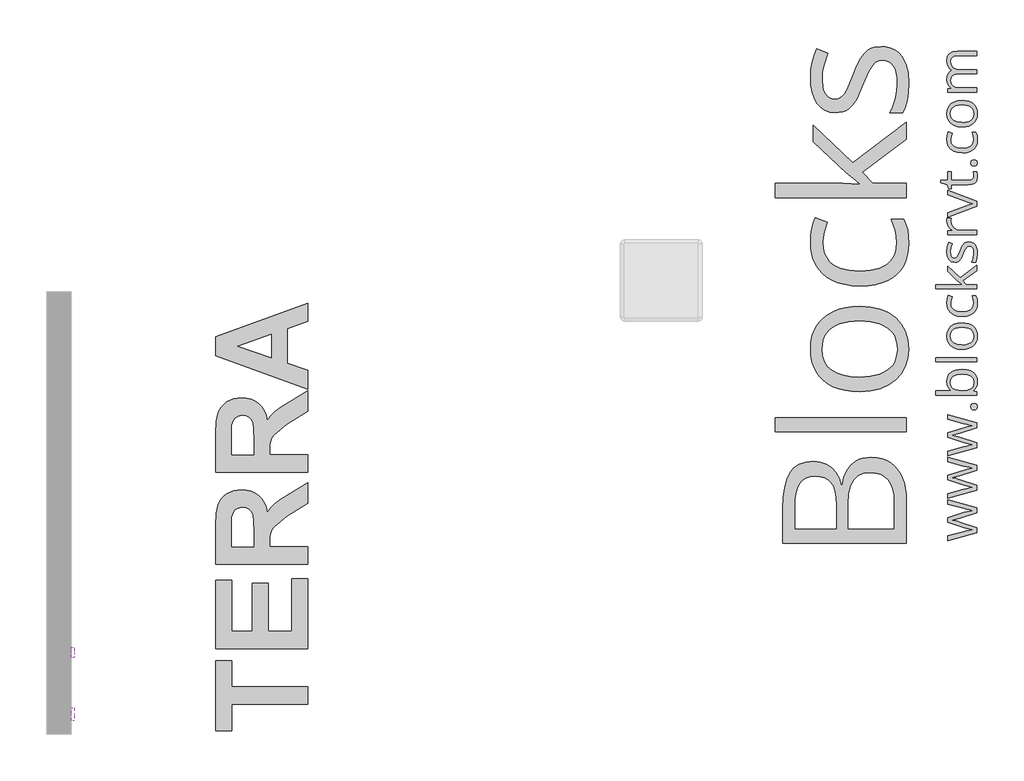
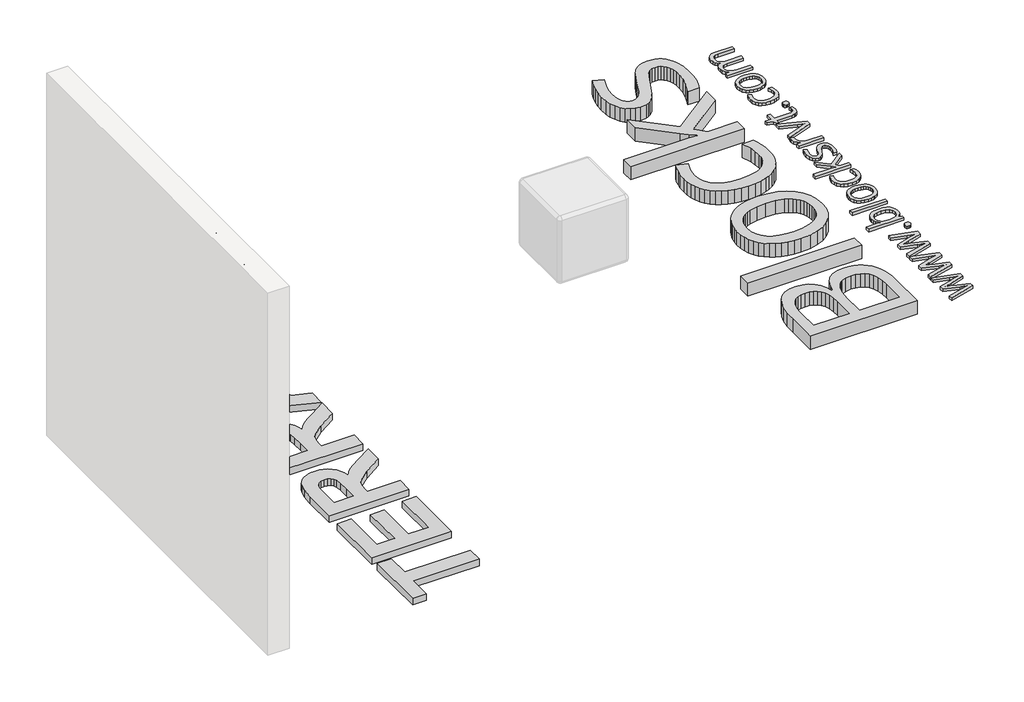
# One storey, part 6 of 6: 5 proxies.
"""IFC4 building model written with IfcOpenShell, lengths in millimetres."""

from ifc_helpers import new_model, si_unit, frame, origin, origin_with_axes, place, context, project, spatial, polyline, outline, extrude, element, save

model = new_model("IFC4")

# Units and contexts
model_context = context("Model", 3, world=origin())
ifc_project = project(units=[si_unit("LENGTHUNIT", "METRE", prefix="MILLI")], contexts=[model_context])

# Site, building, storey
site = spatial("IfcSite", under=ifc_project)
building = spatial("IfcBuilding", under=site)
storey = spatial("IfcBuildingStorey", under=building, Name="PORTOBELLO - SHOWROOM", Elevation=0.0)

# Proxies
placement = place(None, origin())
element("IfcBuildingElementProxy", 1, Name="10mm Arial", ObjectType="10mm Arial", at=placement, inside=storey, context=model_context, shape_type="SweptSolid", body=[
    extrude(outline(polyline([(7317.1715522, 2518.4745677), (7317.1715522, 2606.373839), (7284.2093254, 2606.373839), (7284.2093254, 2618.9308778), (7362.6908177, 2618.9308778), (7362.6908177, 2606.373839), (7329.7285909, 2606.373839), (7329.7285909, 2518.4745677), (7317.1715522, 2518.4745677)])), frame((-18826.2609603, 0.0, 0.0), z_axis=(1.0, 0.0, 0.0), x_axis=(0.0, 1.0, 0.0)), (0.0, 0.0, 1.0), 20.0),
    extrude(outline(polyline([(7426.8984886, 2540.4493855), (7439.2102727, 2538.8797557), (7434.774229, 2529.602998), (7427.6955663, 2522.6684224), (7418.1337001, 2518.345809), (7406.2480459, 2516.9049378), (7391.514372, 2519.391207), (7380.1774752, 2526.8500144), (7372.948594, 2538.7969822), (7370.5389669, 2554.7477324), (7372.9731195, 2571.2349771), (7380.2755771, 2583.5651553), (7391.4591897, 2591.253889), (7405.5368074, 2593.8168003), (7419.1760324, 2591.2600204), (7430.0745365, 2583.5896808), (7437.2206442, 2571.2840281), (7439.6026802, 2554.8213088), (7439.5291038, 2551.4367944), (7383.0960057, 2551.4367944), (7385.2695752, 2542.0374095), (7390.3187555, 2535.1273593), (7397.6058847, 2530.8783223), (7406.4933006, 2529.4619766), (7418.8050847, 2532.0862015), (7426.8984886, 2540.4493855)]), holes=[polyline([(7383.0960057, 2563.9938332), (7427.0456414, 2563.9938332), (7422.0179208, 2575.3736496), (7414.6970691, 2579.7882335), (7405.4877565, 2581.2597615), (7390.02445, 2576.5631347), (7385.1592106, 2571.0724959), (7383.0960057, 2563.9938332)])]), frame((-18826.2609603, 0.0, 0.0), z_axis=(1.0, 0.0, 0.0), x_axis=(0.0, 1.0, 0.0)), (0.0, 0.0, 1.0), 20.0),
    extrude(outline(polyline([(7452.1597189, 2518.4745677), (7452.1597189, 2592.2471704), (7463.1471279, 2592.2471704), (7463.1471279, 2581.3333379), (7470.9462262, 2591.3887791), (7478.7943754, 2593.8168003), (7491.4004651, 2589.9417766), (7487.2066103, 2578.6845875), (7478.3774425, 2581.2597615), (7471.27732, 2578.7826894), (7466.7523714, 2571.9155588), (7464.7167577, 2557.24933), (7464.7167577, 2518.4745677), (7452.1597189, 2518.4745677)])), frame((-18826.2609603, 0.0, 0.0), z_axis=(1.0, 0.0, 0.0), x_axis=(0.0, 1.0, 0.0)), (0.0, 0.0, 1.0), 20.0),
    extrude(outline(polyline([(7499.2486143, 2518.4745677), (7499.2486143, 2592.2471704), (7510.2360232, 2592.2471704), (7510.2360232, 2581.3333379), (7518.0351215, 2591.3887791), (7525.8832708, 2593.8168003), (7538.4893605, 2589.9417766), (7534.2955057, 2578.6845875), (7525.4663378, 2581.2597615), (7518.3662153, 2578.7826894), (7513.8412668, 2571.9155588), (7511.8056531, 2557.24933), (7511.8056531, 2518.4745677), (7499.2486143, 2518.4745677)])), frame((-18826.2609603, 0.0, 0.0), z_axis=(1.0, 0.0, 0.0), x_axis=(0.0, 1.0, 0.0)), (0.0, 0.0, 1.0), 20.0),
    extrude(outline(polyline([(7593.4264051, 2527.8923467), (7581.249511, 2519.3820099), (7567.7972928, 2516.9049378), (7557.3034588, 2518.3948599), (7549.5626085, 2522.8646261), (7544.7893396, 2529.6520489), (7543.19825, 2538.0949407), (7545.6017457, 2548.0277546), (7551.9170533, 2555.2382417), (7560.709433, 2559.3585201), (7571.5742146, 2561.246981), (7593.3528287, 2565.563463), (7593.4264051, 2568.3593662), (7589.9683143, 2577.6299925), (7576.0869004, 2581.2597615), (7563.3827088, 2578.8440031), (7557.3249186, 2570.2723526), (7544.7678799, 2571.8419824), (7550.2002707, 2584.1047156), (7561.1386286, 2591.2906772), (7577.7055812, 2593.8168003), (7592.923633, 2591.5849828), (7601.519809, 2585.9809138), (7605.3703072, 2577.4583142), (7605.9834439, 2566.4709053), (7605.9834439, 2550.8481832), (7606.621106, 2529.0327809), (7609.1227035, 2518.4745677), (7596.5656648, 2518.4745677), (7593.4264051, 2527.8923467)]), holes=[polyline([(7593.4264051, 2553.0064243), (7573.1683699, 2549.1559261), (7562.364902, 2547.1203124), (7557.4720714, 2543.8093744), (7555.7552888, 2538.9778575), (7559.4954224, 2532.1843033), (7570.4705686, 2529.4619766), (7583.1747602, 2532.4663462), (7591.3662659, 2539.738147), (7593.3528287, 2549.4502317), (7593.4264051, 2553.0064243)])]), frame((-18826.2609603, 0.0, 0.0), z_axis=(1.0, 0.0, 0.0), x_axis=(0.0, 1.0, 0.0)), (0.0, 0.0, 1.0), 20.0),
])
element("IfcBuildingElementProxy", 2, Name="10mm Arial Narrow", ObjectType="10mm Arial Narrow", at=placement, inside=storey, context=model_context, shape_type="SweptSolid", body=[
    extrude(outline(polyline([(7669.3713743, 2518.4745677), (7669.3713743, 2619.1931714), (7700.6682589, 2619.1931714), (7716.9639605, 2617.3148507), (7728.4369466, 2607.8344075), (7732.726625, 2590.8152987), (7730.9403166, 2578.7394731), (7725.5813914, 2569.1130794), (7715.8376026, 2562.811821), (7700.8967034, 2560.7114015), (7679.1183359, 2560.7114015), (7679.1183359, 2518.4745677), (7669.3713743, 2518.4745677)]), holes=[polyline([(7679.1183359, 2572.0828568), (7702.0896909, 2572.0828568), (7717.9538863, 2576.613671), (7722.9796634, 2590.2822617), (7720.5048489, 2600.4480381), (7714.52722, 2606.247988), (7701.8612464, 2607.8217162), (7679.1183359, 2607.8217162), (7679.1183359, 2572.0828568)])]), frame((-18826.2609603, 0.0, 0.0), z_axis=(1.0, 0.0, 0.0), x_axis=(0.0, 1.0, 0.0)), (0.0, 0.0, 1.0), 20.0),
    extrude(outline(polyline([(7740.8490931, 2555.0256739), (7742.8035619, 2571.6164494), (7748.6669685, 2583.5685342), (7757.5255353, 2590.7930888), (7768.4654844, 2593.2012737), (7779.27852, 2590.7930888), (7788.1624694, 2583.5685342), (7794.1020242, 2571.8068198), (7796.0818758, 2555.7871552), (7794.1369254, 2538.6252687), (7788.3020743, 2526.4828135), (7779.4530261, 2519.2582589), (7768.4654844, 2516.8500741), (7757.6048562, 2519.2646046), (7748.7304253, 2526.5081962), (7742.8194261, 2538.4666267), (7740.8490931, 2555.0256739)]), holes=[polyline([(7750.5960547, 2555.0510566), (7751.9000916, 2542.4993052), (7755.8122022, 2533.6280471), (7761.6533989, 2528.3547886), (7768.7446942, 2526.5970357), (7775.4647674, 2528.3706528), (7781.1568407, 2533.6915039), (7785.0403958, 2542.5786262), (7786.3349141, 2555.0510566), (7785.0308772, 2567.5647339), (7781.1187667, 2576.4233006), (7775.2775699, 2581.6965592), (7768.1862746, 2583.454312), (7761.4186088, 2581.6870407), (7755.736054, 2576.3852265), (7751.8810545, 2567.5171413), (7750.5960547, 2555.0510566)])]), frame((-18826.2609603, 0.0, 0.0), z_axis=(1.0, 0.0, 0.0), x_axis=(0.0, 1.0, 0.0)), (0.0, 0.0, 1.0), 20.0),
    extrude(outline(polyline([(7867.5595946, 2526.5970357), (7869.1840882, 2516.8500741), (7861.8231015, 2516.8500741), (7853.5483372, 2518.9695306), (7849.233276, 2524.7694804), (7848.0656712, 2539.4153056), (7848.0656712, 2581.8298184), (7839.9432032, 2581.8298184), (7839.9432032, 2585.0788056), (7838.3187096, 2580.2053248), (7830.7546612, 2581.8298184), (7824.6755015, 2579.5073002), (7820.8046379, 2573.0220171), (7818.8247863, 2557.6147106), (7818.8247863, 2518.4745677), (7809.0778246, 2518.4745677), (7809.0778246, 2591.5767801), (7818.8247863, 2591.5767801), (7818.8247863, 2581.8805838), (7825.0689336, 2590.967595), (7831.4653772, 2593.2012737), (7839.9432032, 2591.5767801), (7848.0656712, 2591.5767801), (7848.0656712, 2607.8217162), (7857.8126329, 2615.9441842), (7857.8126329, 2591.5767801), (7867.5595946, 2591.5767801), (7867.5595946, 2581.8298184), (7857.8126329, 2581.8298184), (7857.8126329, 2537.1816269), (7858.6756451, 2529.1860724), (7863.2952988, 2526.5970357), (7867.5595946, 2526.5970357)])), frame((-18826.2609603, 0.0, 0.0), z_axis=(1.0, 0.0, 0.0), x_axis=(0.0, 1.0, 0.0)), (0.0, 0.0, 1.0), 20.0),
    extrude(outline(polyline([(7874.057569, 2555.0256739), (7876.0120379, 2571.6164494), (7881.8754445, 2583.5685342), (7890.7340112, 2590.7930888), (7901.6739603, 2593.2012737), (7912.4869959, 2590.7930888), (7921.3709453, 2583.5685342), (7927.3105001, 2571.8068198), (7929.2903517, 2555.7871552), (7927.3454013, 2538.6252687), (7921.5105503, 2526.4828135), (7912.6615021, 2519.2582589), (7901.6739603, 2516.8500741), (7890.8133322, 2519.2646046), (7881.9389013, 2526.5081962), (7876.0279021, 2538.4666267), (7874.057569, 2555.0256739)]), holes=[polyline([(7883.8045306, 2555.0510566), (7885.1085675, 2542.4993052), (7889.0206781, 2533.6280471), (7894.8618748, 2528.3547886), (7901.9531702, 2526.5970357), (7908.6732433, 2528.3706528), (7914.3653167, 2533.6915039), (7918.2488717, 2542.5786262), (7919.54339, 2555.0510566), (7918.2393532, 2567.5647339), (7914.3272426, 2576.4233006), (7908.4860458, 2581.6965592), (7901.3947505, 2583.454312), (7894.6270847, 2581.6870407), (7888.94453, 2576.3852265), (7885.0895305, 2567.5171413), (7883.8045306, 2555.0510566)])]), frame((-18826.2609603, 0.0, 0.0), z_axis=(1.0, 0.0, 0.0), x_axis=(0.0, 1.0, 0.0)), (0.0, 0.0, 1.0), 20.0),
    extrude(outline(polyline([(7952.0332622, 2518.4745677), (7942.2863006, 2518.4745677), (7942.2863006, 2619.1931714), (7952.0332622, 2619.1931714), (7952.0332622, 2583.7842873), (7959.4323229, 2590.8660641), (7968.6335563, 2593.2012737), (7981.5152829, 2589.0004347), (7990.7926644, 2576.2710043), (7994.270096, 2555.5840935), (7992.337837, 2539.1297501), (7986.54106, 2526.927011), (7978.1679377, 2519.3693083), (7968.5066427, 2516.8500741), (7959.1658045, 2519.4644935), (7952.0332622, 2527.2316035), (7952.0332622, 2518.4745677)]), holes=[polyline([(7952.0332622, 2555.5840935), (7954.1146447, 2538.3365403), (7960.003434, 2529.6048872), (7968.4558773, 2526.5970357), (7974.3986049, 2528.3865169), (7979.6369622, 2533.7549607), (7984.5231344, 2555.1779701), (7979.8146412, 2576.613671), (7974.5699382, 2581.7441518), (7968.2528156, 2583.454312), (7962.2751868, 2581.6648308), (7956.9828912, 2576.2963871), (7952.0332622, 2555.5840935)])]), frame((-18826.2609603, 0.0, 0.0), z_axis=(1.0, 0.0, 0.0), x_axis=(0.0, 1.0, 0.0)), (0.0, 0.0, 1.0), 20.0),
    extrude(outline(polyline([(8046.2538915, 2541.2174782), (8056.0008532, 2539.5929846), (8052.3013228, 2529.706418), (8046.4823359, 2522.5865671), (8038.7786827, 2518.2841973), (8029.4251531, 2516.8500741), (8017.8315991, 2519.2646046), (8008.6874768, 2526.5081962), (8002.7479221, 2538.3143304), (8000.7680705, 2554.4164888), (8002.7574406, 2571.0834124), (8008.7255509, 2583.2639417), (8017.7395867, 2590.7169407), (8028.8667334, 2593.2012737), (8039.5496826, 2590.8026073), (8048.2971999, 2583.6066083), (8054.132051, 2571.8671037), (8056.0770013, 2555.8379207), (8056.0008532, 2552.5889335), (8010.5150321, 2552.5889335), (8016.5180437, 2533.1457756), (8022.4480799, 2528.2342207), (8029.5520666, 2526.5970357), (8039.7305344, 2530.2521463), (8046.2538915, 2541.2174782)]), holes=[polyline([(8011.1749827, 2562.3358951), (8046.2538915, 2562.3358951), (8041.9895958, 2576.6009796), (8036.1642633, 2581.7409789), (8028.9428815, 2583.454312), (8016.7337967, 2577.7432017), (8011.1749827, 2562.3358951)])]), frame((-18826.2609603, 0.0, 0.0), z_axis=(1.0, 0.0, 0.0), x_axis=(0.0, 1.0, 0.0)), (0.0, 0.0, 1.0), 20.0),
    extrude(outline(polyline([(-18806.2609603, 8078.7437637), (-18806.2609603, 8068.9968021), (-18826.2609603, 8068.9968021), (-18826.2609603, 8078.7437637), (-18806.2609603, 8078.7437637)])), frame((0.0, 0.0, 2518.4745677), z_axis=(0.0, 0.0, 1.0), x_axis=(1.0, 0.0, 0.0)), (0.0, 0.0, 1.0), 100.7186038),
    extrude(outline(polyline([(-18806.2609603, 8104.7356615), (-18806.2609603, 8094.9886998), (-18826.2609603, 8094.9886998), (-18826.2609603, 8104.7356615), (-18806.2609603, 8104.7356615)])), frame((0.0, 0.0, 2518.4745677), z_axis=(0.0, 0.0, 1.0), x_axis=(1.0, 0.0, 0.0)), (0.0, 0.0, 1.0), 100.7186038),
    extrude(outline(polyline([(8116.1071167, 2555.0256739), (8118.0615856, 2571.6164494), (8123.9249922, 2583.5685342), (8132.7835589, 2590.7930888), (8143.7235081, 2593.2012737), (8154.5365437, 2590.7930888), (8163.4204931, 2583.5685342), (8169.3600478, 2571.8068198), (8171.3398994, 2555.7871552), (8169.3949491, 2538.6252687), (8163.560098, 2526.4828135), (8154.7110498, 2519.2582589), (8143.7235081, 2516.8500741), (8132.8628799, 2519.2646046), (8123.988449, 2526.5081962), (8118.0774498, 2538.4666267), (8116.1071167, 2555.0256739)]), holes=[polyline([(8125.8540784, 2555.0510566), (8127.1581152, 2542.4993052), (8131.0702258, 2533.6280471), (8136.9114226, 2528.3547886), (8144.0027179, 2526.5970357), (8150.7227911, 2528.3706528), (8156.4148644, 2533.6915039), (8160.2984194, 2542.5786262), (8161.5929378, 2555.0510566), (8160.2889009, 2567.5647339), (8156.3767903, 2576.4233006), (8150.5355936, 2581.6965592), (8143.4442982, 2583.454312), (8136.6766325, 2581.6870407), (8130.9940777, 2576.3852265), (8127.1390782, 2567.5171413), (8125.8540784, 2555.0510566)])]), frame((-18826.2609603, 0.0, 0.0), z_axis=(1.0, 0.0, 0.0), x_axis=(0.0, 1.0, 0.0)), (0.0, 0.0, 1.0), 20.0),
])
element("IfcBuildingElementProxy", 3, Name="25mm OpenSans", ObjectType="25mm OpenSans", at=placement, inside=storey, context=model_context, shape_type="SweptSolid", body=[
    extrude(outline(polyline([(-13300.2390756, 8553.4657869), (-13403.5294814, 8521.9089939), (-13416.6094348, 8517.9737643), (-13428.9023423, 8514.6007105), (-13439.8835066, 8511.8273106), (-13448.7284035, 8509.8409566), (-13439.8835066, 8506.9176433), (-13428.7899072, 8504.2566785), (-13416.234651, 8500.921103), (-13403.0797409, 8496.8734383), (-13300.2390756, 8463.892467), (-13300.2390756, 8433.6848954), (-13477.736667, 8384.8880492), (-13477.736667, 8412.6970046), (-13379.7681906, 8438.1823006), (-13360.5792618, 8443.1294463), (-13342.777033, 8447.177111), (-13328.2729012, 8449.6506839), (-13337.9798008, 8453.1736513), (-13350.047838, 8455.9095727), (-13362.8654428, 8459.2076699), (-13374.8960017, 8462.7681157), (-13477.736667, 8495.44926), (-13477.736667, 8524.3825667), (-13375.0459152, 8555.864403), (-13358.8552565, 8560.6241569), (-13342.5896411, 8564.9341702), (-13328.5727282, 8567.6326133), (-13342.1773789, 8571.3804509), (-13360.0170862, 8575.5030724), (-13379.7681906, 8580.4502181), (-13477.736667, 8606.3102979), (-13477.736667, 8633.594556), (-13300.2390756, 8584.6477963), (-13300.2390756, 8553.4657869)])), origin_with_axes(), (0.0, 0.0, 1.0), 20.0),
    extrude(outline(polyline([(-13300.2390756, 8812.5163258), (-13403.5294814, 8780.9595327), (-13416.6094348, 8777.0243032), (-13428.9023423, 8773.6512493), (-13439.8835066, 8770.8778494), (-13448.7284035, 8768.8914954), (-13439.8835066, 8765.9681821), (-13428.7899072, 8763.3072173), (-13416.234651, 8759.9716418), (-13403.0797409, 8755.9239772), (-13300.2390756, 8722.9430058), (-13300.2390756, 8692.7354343), (-13477.736667, 8643.938588), (-13477.736667, 8671.7475434), (-13379.7681906, 8697.2328395), (-13360.5792618, 8702.1799852), (-13342.777033, 8706.2276498), (-13328.2729012, 8708.7012227), (-13337.9798008, 8712.2241901), (-13350.047838, 8714.9601116), (-13362.8654428, 8718.2582087), (-13374.8960017, 8721.8186545), (-13477.736667, 8754.4997988), (-13477.736667, 8783.4331056), (-13375.0459152, 8814.9149419), (-13358.8552565, 8819.6746957), (-13342.5896411, 8823.984709), (-13328.5727282, 8826.6831521), (-13342.1773789, 8830.4309898), (-13360.0170862, 8834.5536112), (-13379.7681906, 8839.5007569), (-13477.736667, 8865.3608367), (-13477.736667, 8892.6450949), (-13300.2390756, 8843.6983351), (-13300.2390756, 8812.5163258)])), origin_with_axes(), (0.0, 0.0, 1.0), 20.0),
    extrude(outline(polyline([(-13300.2390756, 9071.5668646), (-13403.5294814, 9040.0100715), (-13416.6094348, 9036.074842), (-13428.9023423, 9032.7017881), (-13439.8835066, 9029.9283882), (-13448.7284035, 9027.9420343), (-13439.8835066, 9025.0187209), (-13428.7899072, 9022.3577562), (-13416.234651, 9019.0221806), (-13403.0797409, 9014.974516), (-13300.2390756, 8981.9935446), (-13300.2390756, 8951.7859731), (-13477.736667, 8902.9891268), (-13477.736667, 8930.7980822), (-13379.7681906, 8956.2833783), (-13360.5792618, 8961.230524), (-13342.777033, 8965.2781887), (-13328.2729012, 8967.7517615), (-13337.9798008, 8971.2747289), (-13350.047838, 8974.0106504), (-13362.8654428, 8977.3087475), (-13374.8960017, 8980.8691933), (-13477.736667, 9013.5503377), (-13477.736667, 9042.4836444), (-13375.0459152, 9073.9654807), (-13358.8552565, 9078.7252345), (-13342.5896411, 9083.0352478), (-13328.5727282, 9085.7336909), (-13342.1773789, 9089.4815286), (-13360.0170862, 9093.60415), (-13379.7681906, 9098.5512957), (-13477.736667, 9124.4113755), (-13477.736667, 9151.6956337), (-13300.2390756, 9102.7488739), (-13300.2390756, 9071.5668646)])), origin_with_axes(), (0.0, 0.0, 1.0), 20.0),
    extrude(outline(polyline([(-13316.7295612, 9182.3529457), (-13326.408352, 9183.7302761), (-13332.8077848, 9187.8622671), (-13337.5675386, 9201.3170043), (-13332.8077848, 9215.221482), (-13326.408352, 9219.4659081), (-13316.7295612, 9220.8807168), (-13307.1350968, 9219.4659081), (-13300.5389026, 9215.221482), (-13295.4418434, 9201.3170043), (-13300.5389026, 9187.8622671), (-13307.1350968, 9183.7302761), (-13316.7295612, 9182.3529457)])), origin_with_axes(), (0.0, 0.0, 1.0), 20.0),
    extrude(outline(polyline([(-13549.69515, 9299.5853076), (-13489.4299205, 9299.5853076), (-13469.3040322, 9299.023132), (-13454.1252897, 9298.1611293), (-13465.1251933, 9308.4770525), (-13474.2886563, 9320.6106769), (-13480.4725885, 9336.2672687), (-13482.5338992, 9355.7279157), (-13481.0652153, 9371.5250514), (-13476.6591636, 9385.6356602), (-13469.3157442, 9398.059742), (-13459.0349571, 9408.7972969), (-13445.8589653, 9417.4548019), (-13429.8299321, 9423.638734), (-13389.2127415, 9428.5858798), (-13361.1039591, 9426.318438), (-13337.7924089, 9419.5161126), (-13319.4280044, 9408.6005355), (-13306.1606591, 9393.9933382), (-13298.1215473, 9376.0318262), (-13295.4418434, 9355.0533049), (-13297.4000885, 9335.9299633), (-13303.2748241, 9320.5357201), (-13311.979177, 9308.5707484), (-13322.4262745, 9299.7352211), (-13322.4262745, 9297.636432), (-13300.2390756, 9292.1645891), (-13300.2390756, 9272.75079), (-13549.69515, 9272.75079), (-13549.69515, 9299.5853076)]), holes=[polyline([(-13460.12183, 9351.3054673), (-13458.1916936, 9334.0841532), (-13452.4012844, 9320.7980688), (-13442.7318633, 9311.07243), (-13429.1646909, 9304.5324533), (-13389.8873523, 9299.5853076), (-13358.0963194, 9302.3774467), (-13335.8810117, 9310.7538638), (-13327.9285686, 9317.4765476), (-13322.2482522, 9326.4760428), (-13317.703999, 9351.3054673), (-13322.3513177, 9372.9492297), (-13336.2932738, 9388.4090601), (-13358.8739957, 9397.6849583), (-13389.4376118, 9400.7769243), (-13420.2448373, 9397.7318062), (-13442.3570795, 9388.596452), (-13455.6806424, 9373.1834696), (-13460.12183, 9351.3054673)])]), origin_with_axes(), (0.0, 0.0, 1.0), 20.0),
    extrude(outline(polyline([(-13300.2390756, 9501.2189735), (-13300.2390756, 9474.2345424), (-13549.69515, 9474.2345424), (-13549.69515, 9501.2189735), (-13300.2390756, 9501.2189735)])), origin_with_axes(), (0.0, 0.0, 1.0), 20.0),
    extrude(outline(polyline([(-13389.2876983, 9713.3465849), (-13349.6355759, 9707.68735), (-13333.5292435, 9700.7725896), (-13320.1400935, 9691.3467779), (-13309.5337129, 9679.5598284), (-13301.775689, 9665.5616548), (-13297.0253048, 9649.4740616), (-13295.4418434, 9631.4188537), (-13297.0253048, 9614.3943012), (-13301.775689, 9598.8501445), (-13309.5337129, 9585.0581019), (-13320.1400935, 9573.2898917), (-13333.5292435, 9563.7516448), (-13349.6355759, 9556.6494925), (-13368.2810682, 9552.2364136), (-13389.2876983, 9550.7653874), (-13416.7593483, 9553.2295906), (-13439.8085499, 9560.6222004), (-13458.1729544, 9572.5965417), (-13471.5902132, 9588.8059396), (-13479.7979777, 9608.903719), (-13482.5338992, 9632.543205), (-13479.7792385, 9655.2457316), (-13471.5152565, 9674.9312489), (-13458.0417801, 9691.0937988), (-13439.6586364, 9703.2274232), (-13416.6469132, 9710.8167945), (-13389.2876983, 9713.3465849)]), holes=[polyline([(-13389.362655, 9578.5743428), (-13368.9182006, 9579.9891515), (-13351.3595812, 9584.2335776), (-13337.0803197, 9591.4200563), (-13326.4739392, 9601.6610227), (-13319.8964841, 9615.1344991), (-13317.703999, 9632.0185078), (-13319.8964841, 9648.81819), (-13326.4739392, 9662.3385144), (-13337.0803197, 9672.6638071), (-13351.3595812, 9679.8783946), (-13368.9182006, 9684.1228208), (-13389.362655, 9685.5376295), (-13409.5728696, 9684.1228208), (-13426.87851, 9679.8783946), (-13440.9235316, 9672.6825463), (-13451.3518899, 9662.4134711), (-13457.8169098, 9648.8744076), (-13459.9719165, 9631.8685942), (-13455.2871194, 9607.9667596), (-13441.2327282, 9591.4294259), (-13418.8956158, 9581.7881136), (-13389.362655, 9578.5743428)])]), origin_with_axes(), (0.0, 0.0, 1.0), 20.0),
    extrude(outline(polyline([(-13295.4418434, 9833.0525197), (-13297.9528946, 9810.5561241), (-13305.4860483, 9790.889346), (-13318.1631091, 9774.6518394), (-13336.1058819, 9762.4432582), (-13359.3705842, 9754.7976694), (-13388.0134335, 9752.2491398), (-13417.7900037, 9754.9382133), (-13441.607512, 9763.0054339), (-13459.7470462, 9775.7949299), (-13472.4896943, 9792.6508297), (-13480.0228479, 9812.8329355), (-13482.5338992, 9835.6010493), (-13479.8729344, 9861.2362588), (-13473.164305, 9881.5495389), (-13450.7522358, 9873.4542096), (-13456.5613842, 9854.7899781), (-13459.1473922, 9835.0013952), (-13457.1141903, 9818.1173866), (-13451.0145845, 9804.3440832), (-13440.9797492, 9793.6721155), (-13427.1408586, 9786.0921138), (-13409.5635, 9781.5665998), (-13388.3132605, 9780.0580952), (-13367.8875453, 9781.5291215), (-13350.6849704, 9785.9422003), (-13336.9397758, 9793.2879621), (-13326.8862013, 9803.5570373), (-13320.7303779, 9816.7587954), (-13318.6784368, 9832.9026061), (-13321.676707, 9858.2379887), (-13328.7226417, 9878.7761391), (-13304.8114375, 9878.7761391), (-13297.8779378, 9858.9875562), (-13295.4418434, 9833.0525197)])), origin_with_axes(), (0.0, 0.0, 1.0), 20.0),
    extrude(outline(polyline([(-13549.69515, 9947.0617412), (-13420.8444913, 9947.0617412), (-13405.3284434, 9946.5745223), (-13389.1377848, 9945.7874764), (-13401.6180842, 9956.8435974), (-13414.9229078, 9967.8997185), (-13477.736667, 10026.7407697), (-13477.736667, 10058.2975628), (-13401.9553896, 9987.0136906), (-13300.2390756, 10063.4695788), (-13300.2390756, 10031.0882614), (-13384.2655958, 9968.5743293), (-13364.5519697, 9947.0617412), (-13300.2390756, 9947.0617412), (-13300.2390756, 9920.377137), (-13549.69515, 9920.377137), (-13549.69515, 9947.0617412)])), origin_with_axes(), (0.0, 0.0, 1.0), 20.0),
    extrude(outline(polyline([(-13348.1364408, 10207.6863718), (-13332.2081308, 10205.5688435), (-13319.0532206, 10199.2162587), (-13308.746667, 10188.9190747), (-13301.3634269, 10174.9677491), (-13296.9222392, 10157.6808479), (-13295.4418434, 10137.3769374), (-13298.3651567, 10105.2204903), (-13306.6103996, 10081.4591995), (-13331.3461281, 10081.4591995), (-13321.6017502, 10107.3567577), (-13317.2542585, 10138.0515481), (-13319.1750253, 10157.840131), (-13324.9373257, 10171.3323465), (-13333.9977232, 10179.0903705), (-13345.8127815, 10181.6763785), (-13358.8927349, 10177.553757), (-13369.9113776, 10163.7242361), (-13381.7170662, 10136.9271968), (-13394.834498, 10107.5441496), (-13410.7253297, 10088.4676559), (-13421.5003629, 10083.4361839), (-13435.0862744, 10081.7590265), (-13455.3527066, 10086.3126493), (-13470.27847, 10099.9735176), (-13479.4700419, 10121.017626), (-13482.5338992, 10147.7209693), (-13479.3857155, 10177.7411489), (-13470.9156024, 10203.7886206), (-13449.4030143, 10194.7938103), (-13457.3484301, 10171.3323465), (-13460.5715705, 10145.9220072), (-13458.9974787, 10129.4971087), (-13454.2752032, 10117.4009627), (-13446.8170063, 10109.9521353), (-13437.03515, 10107.4691929), (-13423.0931939, 10112.0790332), (-13412.7866404, 10126.8829919), (-13401.505649, 10153.7175095), (-13388.6130875, 10182.4634244), (-13372.4599072, 10201.1276559), (-13361.638026, 10206.0466928), (-13348.1364408, 10207.6863718)])), origin_with_axes(), (0.0, 0.0, 1.0), 20.0),
    extrude(outline(polyline([(-13482.5338992, 10331.8897117), (-13481.9717235, 10343.058268), (-13480.4351101, 10353.4022999), (-13455.549468, 10350.029246), (-13457.3484301, 10340.2848681), (-13458.0230409, 10330.3156199), (-13453.6755492, 10310.1522533), (-13441.2327282, 10293.5868109), (-13421.7814508, 10282.4182547), (-13396.4835466, 10278.37059), (-13300.2390756, 10278.37059), (-13300.2390756, 10251.3861589), (-13477.736667, 10251.3861589), (-13477.736667, 10273.7232713), (-13446.7045712, 10276.6465847), (-13464.6941919, 10291.0008029), (-13477.6991886, 10309.027902), (-13482.5338992, 10331.8897117)])), origin_with_axes(), (0.0, 0.0, 1.0), 20.0),
    extrude(outline(polyline([(-13300.2390756, 10424.6861721), (-13477.736667, 10357.4499646), (-13477.736667, 10386.2333578), (-13370.3236397, 10425.1359126), (-13346.0376517, 10433.4186339), (-13324.6749771, 10439.2277822), (-13346.1500868, 10446.8358927), (-13370.3236397, 10455.0436571), (-13477.736667, 10494.0211688), (-13477.736667, 10522.804562), (-13300.2390756, 10455.4184409), (-13300.2390756, 10424.6861721)])), origin_with_axes(), (0.0, 0.0, 1.0), 20.0),
    extrude(outline(polyline([(-13317.404172, 10610.8787469), (-13318.5285233, 10624.4459192), (-13321.3019232, 10635.7643889), (-13300.4639458, 10635.7643889), (-13296.9035, 10622.7219139), (-13295.4418434, 10606.4562985), (-13300.4264674, 10580.9710024), (-13307.153836, 10570.6457097), (-13317.3666936, 10562.6065979), (-13331.5991071, 10557.4345819), (-13350.3851434, 10555.7105766), (-13456.7487761, 10555.7105766), (-13456.7487761, 10530.5251075), (-13469.7912511, 10530.5251075), (-13480.3601533, 10555.9354468), (-13520.9117568, 10566.5793058), (-13520.9117568, 10582.6950077), (-13477.736667, 10582.6950077), (-13477.736667, 10634.6400376), (-13456.7487761, 10634.6400376), (-13456.7487761, 10582.6950077), (-13350.9847974, 10582.6950077), (-13336.2464258, 10584.6157745), (-13325.76185, 10590.3780749), (-13319.4935915, 10599.3447765), (-13317.404172, 10610.8787469)])), origin_with_axes(), (0.0, 0.0, 1.0), 20.0),
    extrude(outline(polyline([(-13316.7295612, 10669.4949278), (-13326.408352, 10670.8722582), (-13332.8077848, 10675.0042492), (-13337.5675386, 10688.4589864), (-13332.8077848, 10702.3634641), (-13326.408352, 10706.6078902), (-13316.7295612, 10708.022699), (-13307.1350968, 10706.6078902), (-13300.5389026, 10702.3634641), (-13295.4418434, 10688.4589864), (-13300.5389026, 10675.0042492), (-13307.1350968, 10670.8722582), (-13316.7295612, 10669.4949278)])), origin_with_axes(), (0.0, 0.0, 1.0), 20.0),
    extrude(outline(polyline([(-13295.4418434, 10830.8768173), (-13297.9528946, 10808.3804218), (-13305.4860483, 10788.7136437), (-13318.1631091, 10772.4761371), (-13336.1058819, 10760.2675559), (-13359.3705842, 10752.6219671), (-13388.0134335, 10750.0734375), (-13417.7900037, 10752.762511), (-13441.607512, 10760.8297315), (-13459.7470462, 10773.6192275), (-13472.4896943, 10790.4751274), (-13480.0228479, 10810.6572332), (-13482.5338992, 10833.4253469), (-13479.8729344, 10859.0605565), (-13473.164305, 10879.3738366), (-13450.7522358, 10871.2785073), (-13456.5613842, 10852.6142757), (-13459.1473922, 10832.8256929), (-13457.1141903, 10815.9416843), (-13451.0145845, 10802.1683809), (-13440.9797492, 10791.4964132), (-13427.1408586, 10783.9164115), (-13409.5635, 10779.3908975), (-13388.3132605, 10777.8823929), (-13367.8875453, 10779.3534192), (-13350.6849704, 10783.766498), (-13336.9397758, 10791.1122598), (-13326.8862013, 10801.381335), (-13320.7303779, 10814.5830931), (-13318.6784368, 10830.7269038), (-13321.676707, 10856.0622864), (-13328.7226417, 10876.6004367), (-13304.8114375, 10876.6004367), (-13297.8779378, 10856.8118539), (-13295.4418434, 10830.8768173)])), origin_with_axes(), (0.0, 0.0, 1.0), 20.0),
    extrude(outline(polyline([(-13389.2876983, 11070.9632976), (-13349.6355759, 11065.3040628), (-13333.5292435, 11058.3893023), (-13320.1400935, 11048.9634906), (-13309.5337129, 11037.1765411), (-13301.775689, 11023.1783675), (-13297.0253048, 11007.0907744), (-13295.4418434, 10989.0355664), (-13297.0253048, 10972.0110139), (-13301.775689, 10956.4668572), (-13309.5337129, 10942.6748146), (-13320.1400935, 10930.9066044), (-13333.5292435, 10921.3683576), (-13349.6355759, 10914.2662052), (-13368.2810682, 10909.8531264), (-13389.2876983, 10908.3821001), (-13416.7593483, 10910.8463033), (-13439.8085499, 10918.2389131), (-13458.1729544, 10930.2132544), (-13471.5902132, 10946.4226523), (-13479.7979777, 10966.5204317), (-13482.5338992, 10990.1599177), (-13479.7792385, 11012.8624443), (-13471.5152565, 11032.5479616), (-13458.0417801, 11048.7105115), (-13439.6586364, 11060.8441359), (-13416.6469132, 11068.4335072), (-13389.2876983, 11070.9632976)]), holes=[polyline([(-13389.362655, 10936.1910555), (-13368.9182006, 10937.6058642), (-13351.3595812, 10941.8502903), (-13337.0803197, 10949.0367691), (-13326.4739392, 10959.2777354), (-13319.8964841, 10972.7512118), (-13317.703999, 10989.6352205), (-13319.8964841, 11006.4349028), (-13326.4739392, 11019.9552271), (-13337.0803197, 11030.2805199), (-13351.3595812, 11037.4951073), (-13368.9182006, 11041.7395335), (-13389.362655, 11043.1543422), (-13409.5728696, 11041.7395335), (-13426.87851, 11037.4951073), (-13440.9235316, 11030.299259), (-13451.3518899, 11020.0301839), (-13457.8169098, 11006.4911203), (-13459.9719165, 10989.485307), (-13455.2871194, 10965.5834723), (-13441.2327282, 10949.0461386), (-13418.8956158, 10939.4048263), (-13389.362655, 10936.1910555)])]), origin_with_axes(), (0.0, 0.0, 1.0), 20.0),
    extrude(outline(polyline([(-13482.5338992, 11312.0242157), (-13478.6736264, 11337.7156428), (-13467.092808, 11356.1737433), (-13446.985659, 11367.3048211), (-13417.5463942, 11371.0151804), (-13300.2390756, 11371.0151804), (-13300.2390756, 11344.5554465), (-13416.4220429, 11344.5554465), (-13435.4985366, 11342.2317872), (-13449.1031873, 11335.2608092), (-13457.2547342, 11323.7174692), (-13459.9719165, 11307.676724), (-13456.2053396, 11285.4895251), (-13444.9056091, 11270.3482609), (-13426.2788559, 11261.6345384), (-13400.5312112, 11258.7299642), (-13300.2390756, 11258.7299642), (-13300.2390756, 11232.0453601), (-13416.4220429, 11232.0453601), (-13440.6705525, 11227.9227387), (-13455.1372059, 11215.6298312), (-13459.9719165, 11195.016724), (-13458.1261064, 11179.1446316), (-13452.5886763, 11166.7580281), (-13443.4345828, 11157.5758259), (-13430.7387828, 11151.316937), (-13395.134325, 11146.5197048), (-13300.2390756, 11146.5197048), (-13300.2390756, 11119.6851871), (-13477.736667, 11119.6851871), (-13477.736667, 11141.3476888), (-13454.2752032, 11145.3953535), (-13469.7912511, 11160.274269), (-13479.3107588, 11178.3763248), (-13482.5338992, 11199.7389995), (-13480.6599803, 11218.2814263), (-13475.0382239, 11233.5819735), (-13465.5749338, 11245.3782926), (-13452.1764142, 11253.4080347), (-13465.5749338, 11265.1575058), (-13475.0382239, 11278.7434173), (-13480.6599803, 11294.6717273), (-13482.5338992, 11312.0242157)])), origin_with_axes(), (0.0, 0.0, 1.0), 20.0),
])
element("IfcBuildingElementProxy", 4, Name="550mm Arial", ObjectType="550mm Arial", at=placement, inside=storey, context=model_context, shape_type="SweptSolid", body=[
    extrude(outline(polyline([(-17383.4014648, 7384.6307548), (-17846.5668432, 7384.6307548), (-17846.5668432, 7224.3042776), (-17944.5441347, 7224.3042776), (-17944.5441347, 7651.84155), (-17846.5668432, 7651.84155), (-17846.5668432, 7491.5150729), (-17383.4014648, 7491.5150729), (-17383.4014648, 7384.6307548)])), origin_with_axes(), (0.0, 0.0, 1.0), 50.0),
    extrude(outline(polyline([(-17383.4014648, 7723.0977621), (-17944.5441347, 7723.0977621), (-17944.5441347, 8141.7280079), (-17846.5668432, 8141.7280079), (-17846.5668432, 7829.9820801), (-17721.8684721, 7829.9820801), (-17721.8684721, 8123.9139549), (-17623.8911805, 8123.9139549), (-17623.8911805, 7829.9820801), (-17481.3787564, 7829.9820801), (-17481.3787564, 8150.6350344), (-17383.4014648, 8150.6350344), (-17383.4014648, 7723.0977621)])), origin_with_axes(), (0.0, 0.0, 1.0), 50.0),
    extrude(outline(polyline([(-17383.4014648, 8239.7052995), (-17944.5441347, 8239.7052995), (-17944.5441347, 8475.7415019), (-17940.7516899, 8552.6341917), (-17929.3743552, 8605.1717309), (-17920.3107599, 8624.3427137), (-17908.2897534, 8641.4956984), (-17893.3113358, 8656.6306848), (-17875.375507, 8669.7476731), (-17855.256413, 8680.3421636), (-17833.7281995, 8687.9096568), (-17810.7908666, 8692.4501527), (-17786.4444142, 8693.9636514), (-17756.0961569, 8691.776037), (-17728.5139489, 8685.2131937), (-17703.6977901, 8674.2751216), (-17681.6476805, 8658.9618206), (-17662.8942145, 8639.2906874), (-17647.9679865, 8615.2791184), (-17636.8689964, 8586.9271136), (-17629.5972443, 8554.234673), (-17607.2600919, 8585.2353005), (-17582.8353552, 8610.3211056), (-17547.4508006, 8636.2767375), (-17492.2341949, 8669.8868453), (-17383.4014648, 8738.4987839), (-17383.4014648, 8613.6612405), (-17511.5791431, 8532.3846236), (-17587.6367991, 8468.574129), (-17600.8407701, 8450.8644552), (-17609.1389178, 8432.1109893), (-17613.5228449, 8407.2165461), (-17614.984154, 8371.0839405), (-17614.984154, 8346.5896176), (-17383.4014648, 8346.5896176), (-17383.4014648, 8239.7052995)]), holes=[polyline([(-17712.9614455, 8346.5896176), (-17712.9614455, 8434.6856766), (-17714.5793234, 8504.2196316), (-17719.432957, 8541.6395809), (-17728.2356043, 8560.6713914), (-17741.7005233, 8575.0409303), (-17759.4623867, 8584.0697325), (-17781.1558672, 8587.0793333), (-17805.1804837, 8583.112923), (-17824.0905185, 8571.2136923), (-17837.4336617, 8552.0775026), (-17844.7576034, 8526.4002152), (-17846.5668432, 8439.5567068), (-17846.5668432, 8346.5896176), (-17712.9614455, 8346.5896176)])]), origin_with_axes(), (0.0, 0.0, 1.0), 50.0),
    extrude(outline(polyline([(-17383.4014648, 8800.8479695), (-17944.5441347, 8800.8479695), (-17944.5441347, 9036.8841719), (-17940.7516899, 9113.7768617), (-17929.3743552, 9166.3144009), (-17920.3107599, 9185.4853837), (-17908.2897534, 9202.6383683), (-17893.3113358, 9217.7733548), (-17875.375507, 9230.890343), (-17855.256413, 9241.4848335), (-17833.7281995, 9249.0523268), (-17810.7908666, 9253.5928227), (-17786.4444142, 9255.1063214), (-17756.0961569, 9252.9187069), (-17728.5139489, 9246.3558637), (-17703.6977901, 9235.4177916), (-17681.6476805, 9220.1044906), (-17662.8942145, 9200.4333574), (-17647.9679865, 9176.4217884), (-17636.8689964, 9148.0697836), (-17629.5972443, 9115.377343), (-17607.2600919, 9146.3779704), (-17582.8353552, 9171.4637756), (-17547.4508006, 9197.4194075), (-17492.2341949, 9231.0295153), (-17383.4014648, 9299.6414539), (-17383.4014648, 9174.8039105), (-17511.5791431, 9093.5272936), (-17587.6367991, 9029.716799), (-17600.8407701, 9012.0071252), (-17609.1389178, 8993.2536593), (-17613.5228449, 8968.359216), (-17614.984154, 8932.2266105), (-17614.984154, 8907.7322876), (-17383.4014648, 8907.7322876), (-17383.4014648, 8800.8479695)]), holes=[polyline([(-17712.9614455, 8907.7322876), (-17712.9614455, 8995.8283466), (-17714.5793234, 9065.3623016), (-17719.432957, 9102.7822508), (-17728.2356043, 9121.8140614), (-17741.7005233, 9136.1836002), (-17759.4623867, 9145.2124025), (-17781.1558672, 9148.2220033), (-17805.1804837, 9144.255593), (-17824.0905185, 9132.3563623), (-17837.4336617, 9113.2201725), (-17844.7576034, 9087.5428852), (-17846.5668432, 9000.6993767), (-17846.5668432, 8907.7322876), (-17712.9614455, 8907.7322876)])]), origin_with_axes(), (0.0, 0.0, 1.0), 50.0),
    extrude(outline(polyline([(-17383.4014648, 9834.0630443), (-17383.4014648, 9721.751007), (-17508.0998359, 9677.7725636), (-17508.0998359, 9465.8131672), (-17383.4014648, 9422.3914129), (-17383.4014648, 9308.5484804), (-17944.5441347, 9513.4100901), (-17944.5441347, 9627.2530226), (-17383.4014648, 9834.0630443)]), holes=[polyline([(-17606.0771275, 9643.5361805), (-17810.9387371, 9571.3057624), (-17606.0771275, 9500.0495503), (-17606.0771275, 9643.5361805)])]), origin_with_axes(), (0.0, 0.0, 1.0), 50.0),
])
element("IfcBuildingElementProxy", 5, Name="80mm OpenSans", ObjectType="80mm OpenSans", at=placement, inside=storey, context=model_context, shape_type="SweptSolid", body=[
    extrude(outline(polyline([(-14483.4720988, 8367.9958948), (-14483.4720988, 8582.6432524), (-14480.8055321, 8649.2623528), (-14472.8058318, 8707.0630043), (-14459.4729979, 8756.0452068), (-14440.8070306, 8796.2089603), (-14415.7563259, 8827.4941732), (-14383.26928, 8849.8407539), (-14343.3458931, 8863.2487023), (-14295.986165, 8867.7180184), (-14254.0421965, 8863.5116032), (-14216.665193, 8850.8923577), (-14184.636346, 8830.2208316), (-14158.7368468, 8801.857575), (-14139.3873369, 8765.922771), (-14127.008458, 8722.536603), (-14121.7203932, 8722.536603), (-14110.8438054, 8769.4381323), (-14093.5975031, 8810.6309552), (-14069.0500659, 8844.8231015), (-14036.2700733, 8870.7226007), (-14016.582548, 8880.239615), (-13994.4162423, 8887.0374824), (-13942.6472897, 8892.4757763), (-13909.386564, 8890.4551948), (-13878.8299622, 8884.39345), (-13850.9774846, 8874.2905421), (-13825.829131, 8860.1464711), (-13803.4900618, 8842.3067638), (-13784.0654374, 8821.1169474), (-13767.5552578, 8796.5770216), (-13753.959523, 8768.6869867), (-13743.3383247, 8737.7698351), (-13735.7517544, 8704.1485595), (-13731.1998123, 8667.8231598), (-13729.6824982, 8628.7936361), (-13729.6824982, 8367.9958948), (-14483.4720988, 8367.9958948)]), holes=[polyline([(-14157.5350139, 8456.2104303), (-14157.5350139, 8601.3918457), (-14159.5856413, 8646.9938932), (-14165.7375235, 8685.0093704), (-14175.9906605, 8715.4382774), (-14190.3450523, 8738.2806141), (-14208.6354469, 8754.9485343), (-14230.6965922, 8766.8541915), (-14256.5284883, 8773.9975859), (-14286.1311352, 8776.3787173), (-14316.4173245, 8773.5468985), (-14342.1365487, 8765.0514421), (-14363.2888079, 8750.8923482), (-14379.8741021, 8731.0696166), (-14392.3881872, 8705.0574456), (-14401.3268195, 8672.3300332), (-14406.6899989, 8632.8873794), (-14408.4777253, 8586.7294843), (-14408.4777253, 8456.2104303), (-14157.5350139, 8456.2104303)]), polyline([(-14083.5021067, 8456.2104303), (-13804.9172383, 8456.2104303), (-13804.9172383, 8613.6505414), (-13807.35095, 8660.5445592), (-13814.6520849, 8700.0322818), (-13826.8206431, 8732.113709), (-13843.8566246, 8756.7888409), (-13865.0389296, 8775.1393271), (-13889.6464584, 8788.2468173), (-13917.679211, 8796.1113114), (-13949.1371874, 8798.7328094), (-13988.2268028, 8794.0156153), (-14021.3673453, 8779.8640328), (-14035.5639965, 8768.9649106), (-14047.9879442, 8755.1363206), (-14067.517729, 8718.6907377), (-14079.5060123, 8669.3554968), (-14083.5021067, 8605.9588108), (-14083.5021067, 8456.2104303)])]), origin_with_axes(), (0.0, 0.0, 1.0), 100.0),
    extrude(outline(polyline([(-13729.6824982, 9133.8038245), (-13729.6824982, 9047.271855), (-14529.6224826, 9047.271855), (-14529.6224826, 9133.8038245), (-13729.6824982, 9133.8038245)])), origin_with_axes(), (0.0, 0.0, 1.0), 100.0),
    extrude(outline(polyline([(-14015.2379974, 9814.0412511), (-13947.8752629, 9809.5043318), (-13888.0840756, 9795.8935742), (-13836.4353064, 9773.719757), (-13793.4998257, 9743.4936593), (-13759.4879544, 9705.6960143), (-13734.6100131, 9660.8075552), (-13719.376781, 9609.2188775), (-13714.299037, 9551.3205771), (-13719.376781, 9496.7273172), (-13734.6100131, 9446.8812973), (-13759.4879544, 9402.6538463), (-13793.4998257, 9364.9162929), (-13836.4353064, 9334.3296454), (-13888.0840756, 9311.5549118), (-13947.8752629, 9297.4033293), (-14015.2379974, 9292.6861351), (-14061.0578771, 9294.6616479), (-14103.3323497, 9300.5881865), (-14142.0614152, 9310.4657507), (-14177.2450736, 9324.2943406), (-14208.6730042, 9341.7960323), (-14236.1348861, 9362.692902), (-14259.6307195, 9386.9849497), (-14279.1605043, 9414.6721754), (-14294.5139197, 9445.4766551), (-14305.480645, 9479.1204651), (-14312.0606802, 9515.6036054), (-14314.2540252, 9554.9260759), (-14312.0456573, 9592.5359345), (-14305.4205533, 9627.7271043), (-14294.3787135, 9660.4995855), (-14278.9201377, 9690.8533779), (-14259.2851925, 9718.382863), (-14235.7142446, 9742.6824221), (-14208.2072939, 9763.7520553), (-14176.7643404, 9781.5917625), (-14141.6107278, 9795.7884138), (-14102.9717998, 9805.9288789), (-14060.8475563, 9812.013158), (-14015.2379974, 9814.0412511)]), holes=[polyline([(-14015.478364, 9381.8621369), (-13949.9183788, 9386.3990562), (-13893.612507, 9400.0098139), (-13869.2453448, 9410.3080196), (-13847.8226732, 9423.0549599), (-13829.3444922, 9438.2506348), (-13813.8108019, 9455.8950442), (-13801.5070375, 9476.1309058), (-13792.7186343, 9499.1009372), (-13787.4455924, 9524.8051386), (-13785.6879118, 9553.2435098), (-13787.4455924, 9581.4940946), (-13792.7186343, 9607.1156699), (-13801.5070375, 9630.1082358), (-13813.8108019, 9650.4717921), (-13829.3444922, 9668.2739421), (-13847.8226732, 9683.5822888), (-13869.2453448, 9696.3968322), (-13893.612507, 9706.7175723), (-13949.9183788, 9720.32833), (-14015.478364, 9724.8652492), (-14080.2872036, 9720.32833), (-14135.7818382, 9706.7175723), (-14159.7508933, 9696.4118551), (-14180.8205265, 9683.6423804), (-14198.9907378, 9668.4091483), (-14214.2615272, 9650.7121587), (-14226.3549708, 9630.3936711), (-14234.9931449, 9607.2959449), (-14240.1760493, 9581.4189801), (-14241.9036841, 9552.7627766), (-14238.1479563, 9511.4873277), (-14226.8807727, 9476.1158828), (-14208.1021335, 9446.6484422), (-14181.8120386, 9423.0850057), (-14148.8818169, 9405.0500006), (-14110.1827973, 9392.1678541), (-14065.7149796, 9384.4385662), (-14015.478364, 9381.8621369)])]), origin_with_axes(), (0.0, 0.0, 1.0), 100.0),
    extrude(outline(polyline([(-13714.299037, 10197.9066823), (-13716.3121071, 10160.7024423), (-13722.3513175, 10125.7666619), (-13732.4166681, 10093.0993411), (-13746.5081589, 10062.70048), (-13764.723439, 10035.0508116), (-13787.1601571, 10010.6310692), (-13813.8183133, 9989.4412527), (-13844.6979076, 9971.4813622), (-13879.8440088, 9957.1795506), (-13919.3016855, 9946.9639708), (-13963.0709377, 9940.834623), (-14011.1517655, 9938.791507), (-14061.2832208, 9940.9472948), (-14106.6373902, 9947.4146582), (-14147.2142738, 9958.1935971), (-14183.0138716, 9973.2841115), (-14214.2615272, 9992.1603997), (-14241.1825844, 10014.2966596), (-14263.777043, 10039.6928912), (-14282.0449033, 10068.3490947), (-14296.1363941, 10099.6718649), (-14306.2017447, 10133.0677968), (-14312.2409551, 10168.5368905), (-14314.2540252, 10206.079146), (-14312.1207718, 10247.9029313), (-14305.7210116, 10288.284517), (-14296.0763025, 10324.399596), (-14284.2082025, 10353.4238607), (-14212.3385945, 10327.4642699), (-14230.9670046, 10267.612991), (-14237.1864899, 10234.8029526), (-14239.2596517, 10204.1562134), (-14237.6296658, 10175.8380255), (-14232.7397082, 10150.0136408), (-14224.5897788, 10126.6830595), (-14213.1798776, 10105.8462814), (-14198.615165, 10087.4957952), (-14181.0008014, 10071.6240893), (-14160.3367868, 10058.2311639), (-14136.6231213, 10047.3170187), (-14080.2571578, 10032.8048864), (-14012.1132319, 10027.9675089), (-13946.6133383, 10032.6847031), (-13891.4492078, 10046.8362856), (-13867.9308401, 10057.442461), (-13847.3719858, 10070.3922106), (-13829.7726452, 10085.6855344), (-13815.1328181, 10103.3224323), (-13803.6177565, 10123.3104159), (-13795.3927125, 10145.6569965), (-13790.4576861, 10170.3621743), (-13788.8126774, 10197.4259491), (-13791.2163432, 10240.2112007), (-13798.4273406, 10278.6698538), (-13821.0217993, 10344.5302972), (-13744.3448597, 10344.5302972), (-13731.5753851, 10314.4844745), (-13722.1109509, 10281.0735196), (-13716.2520155, 10242.7350498), (-13714.299037, 10197.9066823)])), origin_with_axes(), (0.0, 0.0, 1.0), 100.0),
    extrude(outline(polyline([(-14529.6224826, 10563.5042532), (-14116.4323284, 10563.5042532), (-14066.6764459, 10561.9418704), (-14014.7572643, 10559.4180213), (-14014.7572643, 10563.0235201), (-14054.7783001, 10594.8720922), (-14097.4433684, 10630.326163), (-14298.870564, 10819.0139297), (-14298.870564, 10920.2082607), (-14055.8599498, 10691.6196413), (-13729.6824982, 10936.7935548), (-13729.6824982, 10832.9551915), (-13999.1334365, 10632.4894622), (-13935.9170254, 10563.5042532), (-13729.6824982, 10563.5042532), (-13729.6824982, 10477.9337501), (-14529.6224826, 10477.9337501), (-14529.6224826, 10563.5042532)])), origin_with_axes(), (0.0, 0.0, 1.0), 100.0),
    extrude(outline(polyline([(-13883.276744, 11399.2588583), (-13856.6260992, 11397.5612693), (-13832.1988454, 11392.4685023), (-13809.9949824, 11383.9805574), (-13790.0145103, 11372.0974345), (-13772.3175207, 11357.0519888), (-13756.9641053, 11339.0770753), (-13743.954264, 11318.1726942), (-13733.2879969, 11294.3388453), (-13719.046277, 11238.9043023), (-13714.299037, 11173.7950045), (-13716.6426112, 11118.2102324), (-13723.6733337, 11070.6777409), (-13734.970563, 11029.8755136), (-13750.1136577, 10994.4815344), (-13829.4346297, 10994.4815344), (-13812.9695188, 11032.6697751), (-13798.186974, 11077.5281885), (-13787.7310277, 11126.2324671), (-13784.2457123, 11175.9583037), (-13785.7855607, 11210.2105416), (-13790.405106, 11239.4150813), (-13798.104348, 11263.5719228), (-13808.8832869, 11282.6810661), (-13822.3062582, 11297.1931984), (-13837.9375975, 11307.5590073), (-13855.7773048, 11313.7784926), (-13875.82538, 11315.8516544), (-13898.2095179, 11312.5466139), (-13917.7693485, 11302.6314924), (-13935.6766588, 11284.9345028), (-13953.103236, 11258.283858), (-13971.1607755, 11221.2373586), (-13990.9609727, 11172.352805), (-14033.0251245, 11078.1291049), (-14056.2204996, 11043.0055382), (-14083.9828398, 11016.9558098), (-14100.1324696, 11007.5439559), (-14118.535536, 11000.821203), (-14162.1019789, 10995.4430008), (-14196.7373011, 10999.0935682), (-14227.0910935, 11010.0452706), (-14253.1633562, 11028.2981079), (-14274.9540891, 11053.8520802), (-14292.1478112, 11085.3250795), (-14304.4290412, 11121.334998), (-14311.7977792, 11161.8818358), (-14314.2540252, 11206.9655928), (-14311.7301761, 11256.751521), (-14304.1586288, 11303.2324088), (-14292.3205746, 11346.5284394), (-14276.997205, 11386.759796), (-14208.0119961, 11357.9158062), (-14233.4908537, 11282.6810661), (-14241.242676, 11242.359572), (-14243.8266168, 11201.1967948), (-14238.7789185, 11148.5264676), (-14232.4692958, 11127.3967427), (-14223.6358239, 11109.7373104), (-14212.6090069, 11095.8035601), (-14199.719349, 11085.8508814), (-14184.96685, 11079.8792741), (-14168.3515101, 11077.8887383), (-14143.5937521, 11081.5843745), (-14123.6433258, 11092.6712831), (-14106.6073444, 11111.9306555), (-14090.5929208, 11140.143683), (-14054.4177503, 11226.1949193), (-14034.1067741, 11275.9207559), (-14013.0746982, 11318.3755035), (-13989.4286357, 11352.7479247), (-13961.2756998, 11378.2267823), (-13944.9983753, 11387.4283156), (-13926.5727746, 11394.0008393), (-13883.276744, 11399.2588583)])), origin_with_axes(), (0.0, 0.0, 1.0), 100.0),
])

save(model, "model.ifc")
